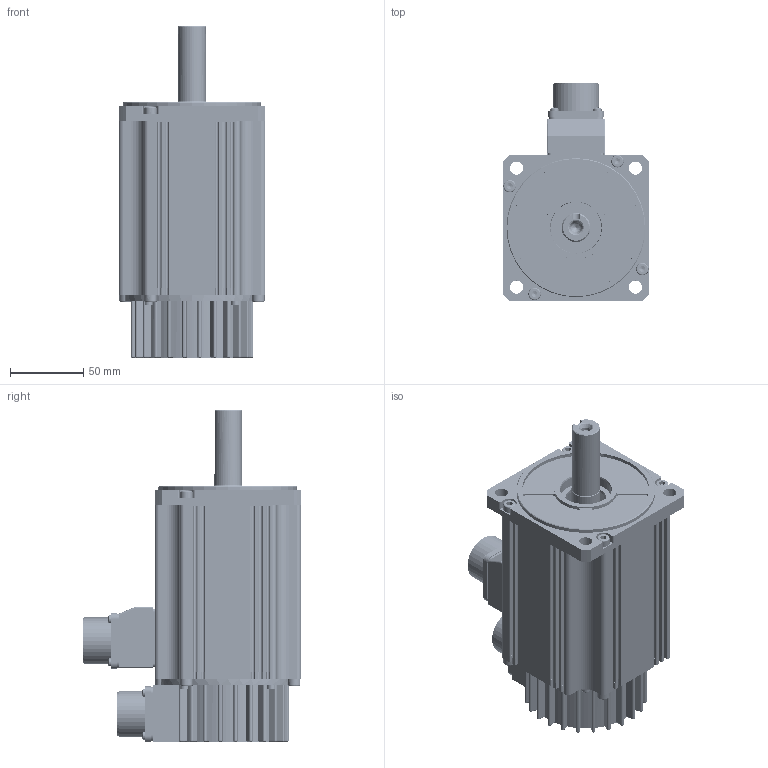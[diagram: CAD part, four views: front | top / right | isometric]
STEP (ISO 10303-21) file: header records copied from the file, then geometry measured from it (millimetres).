
FILE_DESCRIPTION((''),'2;1');
FILE_NAME('L-20E4K4A0_ASM_ASM','2018-11-27T',('JIANGFEI6'),(''),'CREO PARAMETRIC BY PTC INC, 2015480','CREO PARAMETRIC BY PTC INC, 2015480','');
FILE_SCHEMA(('CONFIG_CONTROL_DESIGN'));
Products named in the file (31): 80D20009011_AF0_1; HANGCHAMIFENGJIAODIAN_1_1; 80G3000501_1_1; MJ01-8041_1_1; 80T5004101_AF0_ASM_1_ASM; 80D2004601_AF0_1; MJ01-8033_AF0_1; MJ01-8033_AF1_1; MJ01-8033_AF2_1; MJ01-8033_AF3_1; ASM0001_AF0_ASM_1_ASM; 80D5004501_AF0_1; 80G60001011_1; HANGCHAMIFENGJIAODIAN_1; HANGCHA_1; MJ01-8042_AF0_1; MJ01-8042_AF1_1; MJ01-8042_AF2_1; MJ01-8042_AF3_1; DONGLIXIANCHAZUO_AF0_ASM_1_ASM; 80S6000401_1_1; ASM0002_AF0_ASM_1_ASM; 80Q0005801_AF0_1; 80D2004501_AF0_1; MJ01-8059_AF0_1; MJ01-8059_AF1_1; MJ01-8059_AF2_1; MJ01-8059_AF3_1; L-20E4K4A0_ASM_1_ASM; MJ01-8059_AF8_1_1; L-20E4K4A0_ASM_ASM
Assembly tree (36 placements, depth 5):
  L-20E4K4A0_ASM_ASM
    L-20E4K4A0_ASM_1_ASM
      ASM0001_AF0_ASM_1_ASM
        80T5004101_AF0_ASM_1_ASM
          80D20009011_AF0_1
          HANGCHAMIFENGJIAODIAN_1_1
          80G3000501_1_1
          MJ01-8041_1_1  x4
        80D2004601_AF0_1
        MJ01-8033_AF0_1
        MJ01-8033_AF1_1
        MJ01-8033_AF2_1
        MJ01-8033_AF3_1
      80D5004501_AF0_1
      ASM0002_AF0_ASM_1_ASM
        DONGLIXIANCHAZUO_AF0_ASM_1_ASM
          80G60001011_1
          HANGCHAMIFENGJIAODIAN_1
          HANGCHA_1
          MJ01-8042_AF0_1
          MJ01-8042_AF1_1
          MJ01-8042_AF2_1
          MJ01-8042_AF3_1
        80S6000401_1_1
      80Q0005801_AF0_1
      80D2004501_AF0_1
      MJ01-8059_AF0_1
      MJ01-8059_AF1_1
      MJ01-8059_AF2_1
      MJ01-8059_AF3_1
    MJ01-8059_AF8_1_1  x4
Bounding box: 100 x 149.1 x 227.05 mm (x, y, z)
Volume: 386397 mm3; surface area: 240004 mm2
Topology: 31 solids, 62 shells, 4679 faces, 10726 edges, 6101 vertices
Faces by surface type: cone 1921, cylinder 1781, plane 823, sphere 108, torus 44, bspline 2
Entity records: 116256 total; most frequent: DIRECTION 21905, CARTESIAN_POINT 20953, ORIENTED_EDGE 18528, EDGE_CURVE 9332, AXIS2_PLACEMENT_3D 8652, VERTEX_POINT 5432, VECTOR 4601, LINE 4601
